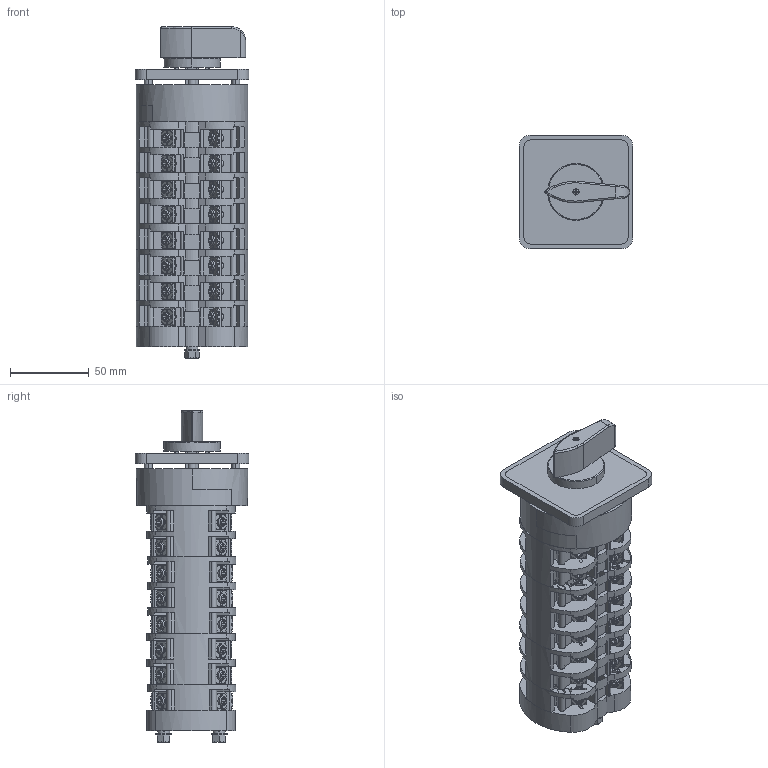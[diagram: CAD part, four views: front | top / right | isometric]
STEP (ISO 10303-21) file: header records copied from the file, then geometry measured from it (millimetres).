
FILE_DESCRIPTION((''),'2;1');
FILE_NAME('2470000100_SW0001','2025-04-08T',('sipei.wu'),(''),'PRO/ENGINEER BY PARAMETRIC TECHNOLOGY CORPORATION, 2015440','PRO/ENGINEER BY PARAMETRIC TECHNOLOGY CORPORATION, 2015440','');
FILE_SCHEMA(('CONFIG_CONTROL_DESIGN'));
Products named in the file (1): 2470000100_SW0001
Bounding box: 72 x 72 x 210.53 mm (x, y, z)
Volume: 473914.6 mm3; surface area: 144414.4 mm2
Topology: 1 solids, 54 shells, 5882 faces, 16617 edges, 10666 vertices
Faces by surface type: plane 4002, cylinder 1495, cone 168, torus 140, sphere 66, bspline 11
Entity records: 193590 total; most frequent: CARTESIAN_POINT 39357, ORIENTED_EDGE 33234, DIRECTION 31320, EDGE_CURVE 16617, VECTOR 11712, LINE 11712, VERTEX_POINT 10666, AXIS2_PLACEMENT_3D 9804
